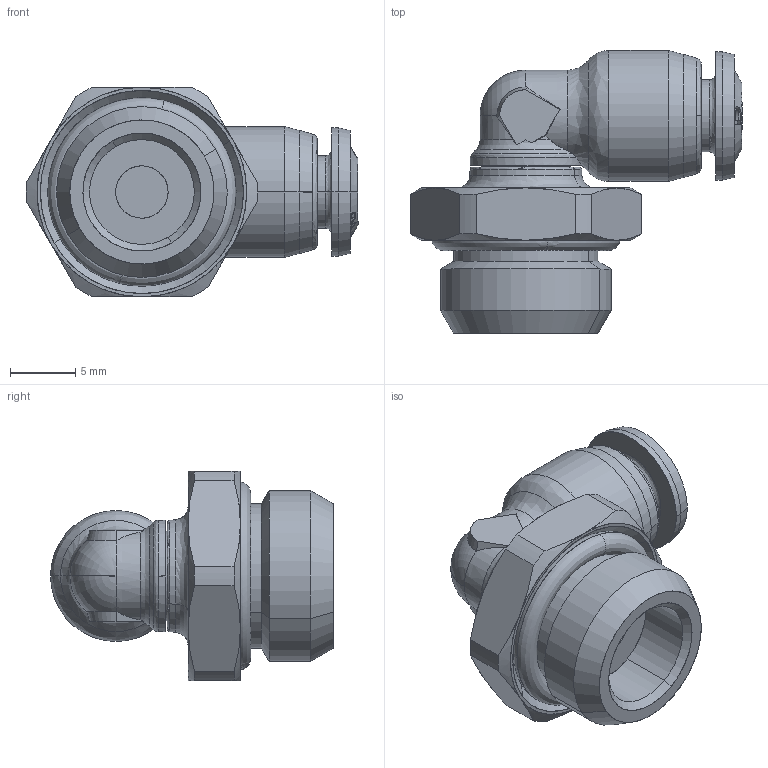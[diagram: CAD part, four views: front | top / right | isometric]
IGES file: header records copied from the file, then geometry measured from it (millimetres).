
Start section: SolidWorks IGES file using analytic representation for surfaces
Global section: file name: K:\Disegni Esecutivi\Serie 55000\ASSIEMI_55000\55116\ASSIEMI_PIENI_55116\5511600005.IGS; native system: SolidWorks 2007; preprocessor: SolidWorks 2007; author: cad02; date: 071126.084655; units: millimetre
Bounding box: 25.35 x 21.6 x 16 mm (x, y, z)
Surface area: 2152.7 mm2 (no closed solid volume)
Topology: 0 solids, 0 shells, 264 faces, 2702 edges, 2700 vertices
Faces by surface type: bspline 174, revolution 90
